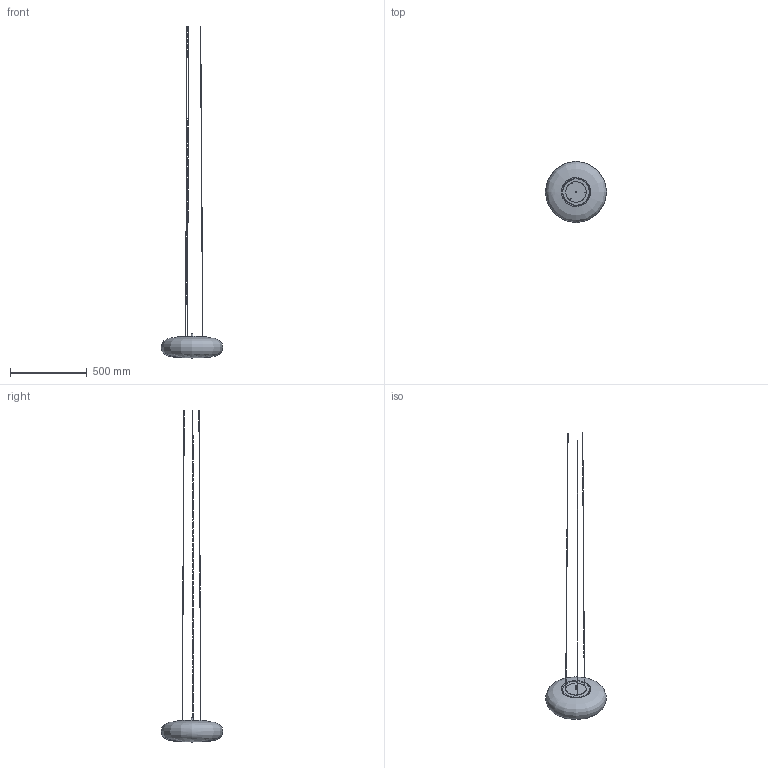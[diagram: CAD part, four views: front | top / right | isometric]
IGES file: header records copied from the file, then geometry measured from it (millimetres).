
Global section: file name: /Users/064_p/Desktop/3d data for homepage/SNOWBALL40 P.igs; native system: Rhinoceros ( Jul  7 2025 ); preprocessor: Trout Lake IGES 012 Jul  7 2025; date: 260805.081345; units: millimetre
Bounding box: 399.93 x 400 x 2168.2 mm (x, y, z)
Surface area: 373383 mm2 (no closed solid volume)
Topology: 0 solids, 0 shells, 12 faces, 184 edges, 170 vertices
Faces by surface type: bspline 12
